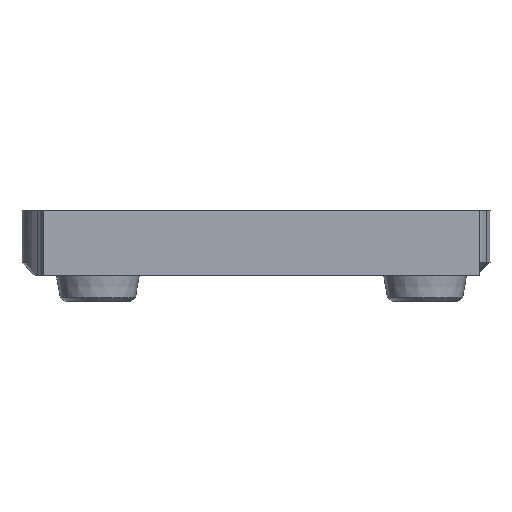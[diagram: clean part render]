
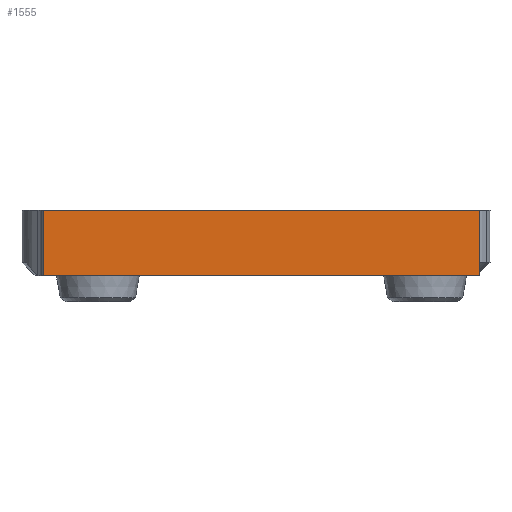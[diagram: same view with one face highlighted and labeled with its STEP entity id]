
A CAD part, front view. The second image highlights one B-rep face of the part: STEP entity #1555.
In plain terms, the highlighted planar face has unit normal (0, -1, 0).
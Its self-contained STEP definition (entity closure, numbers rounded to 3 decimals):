
#111=PLANE('',#1721);
#200=FACE_OUTER_BOUND('',#301,.T.);
#301=EDGE_LOOP('',(#1435,#1436,#1437,#1438));
#363=LINE('',#2387,#498);
#376=LINE('',#2442,#511);
#391=LINE('',#2520,#526);
#437=LINE('',#2724,#572);
#498=VECTOR('',#1931,10.);
#511=VECTOR('',#1976,10.);
#526=VECTOR('',#2037,10.);
#572=VECTOR('',#2185,10.);
#708=VERTEX_POINT('',#2384);
#709=VERTEX_POINT('',#2386);
#734=VERTEX_POINT('',#2439);
#735=VERTEX_POINT('',#2441);
#878=EDGE_CURVE('',#708,#709,#363,.T.);
#905=EDGE_CURVE('',#735,#734,#376,.T.);
#939=EDGE_CURVE('',#735,#708,#391,.T.);
#1005=EDGE_CURVE('',#734,#709,#437,.T.);
#1435=ORIENTED_EDGE('',*,*,#905,.T.);
#1436=ORIENTED_EDGE('',*,*,#1005,.T.);
#1437=ORIENTED_EDGE('',*,*,#878,.F.);
#1438=ORIENTED_EDGE('',*,*,#939,.F.);
#1555=ADVANCED_FACE('',(#200),#111,.T.);
#1721=AXIS2_PLACEMENT_3D('',#2723,#2183,#2184);
#1931=DIRECTION('',(1.,0.,0.));
#1976=DIRECTION('',(1.,0.,0.));
#2037=DIRECTION('',(0.,0.,1.));
#2183=DIRECTION('center_axis',(0.,-1.,0.));
#2184=DIRECTION('ref_axis',(1.,0.,0.));
#2185=DIRECTION('',(0.,0.,1.));
#2384=CARTESIAN_POINT('',(-40.,-42.533,48.875));
#2386=CARTESIAN_POINT('',(0.,-42.533,48.875));
#2387=CARTESIAN_POINT('',(-40.,-42.533,48.875));
#2439=CARTESIAN_POINT('',(0.,-42.533,42.875));
#2441=CARTESIAN_POINT('',(-40.,-42.533,42.875));
#2442=CARTESIAN_POINT('',(-40.,-42.533,42.875));
#2520=CARTESIAN_POINT('',(-40.,-42.533,42.875));
#2723=CARTESIAN_POINT('Origin',(-40.,-42.533,42.875));
#2724=CARTESIAN_POINT('',(0.,-42.533,42.875));
